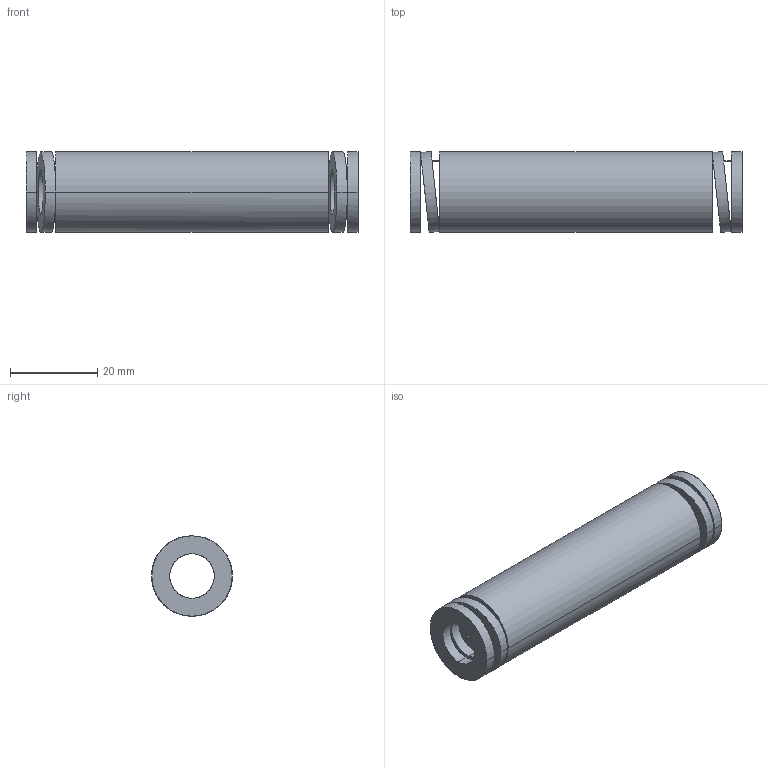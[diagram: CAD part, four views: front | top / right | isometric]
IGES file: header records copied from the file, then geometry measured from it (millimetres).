
Start section: START RECORD GO HERE.
Global section: file name: 392-B20-076.igs; native system: DASSAULT SYSTEMES CATIA V5 R20 - www.3ds.com; preprocessor: CATIA Version 5 Release 20 ; author: Utente; organization: NB04-ASUS; date: 20210812.155532; units: millimetre
Bounding box: 76 x 18.55 x 18.4 mm (x, y, z)
Surface area: 8303.4 mm2 (no closed solid volume)
Topology: 0 solids, 0 shells, 38 faces, 184 edges, 184 vertices
Faces by surface type: revolution 28, plane 10
